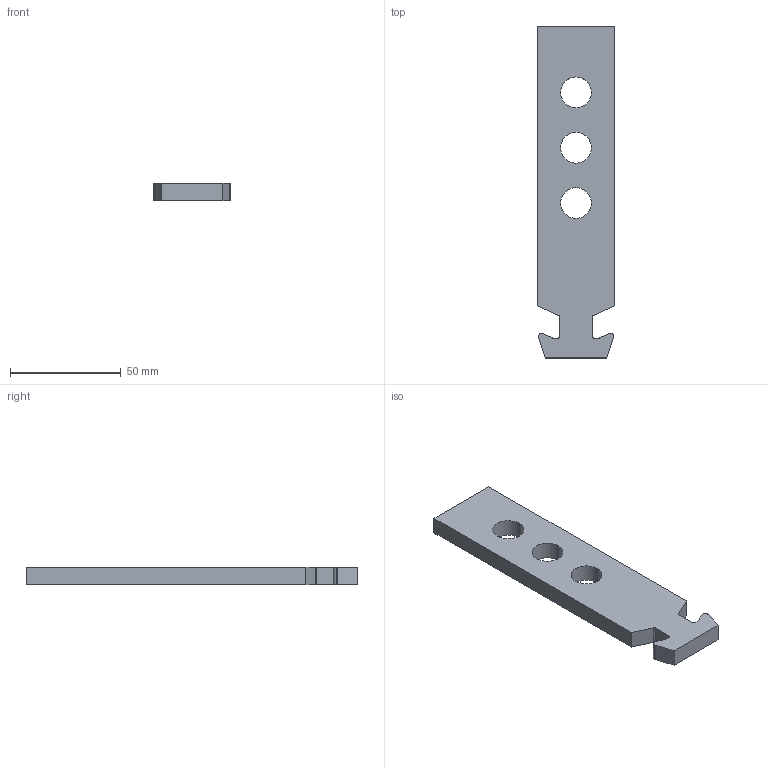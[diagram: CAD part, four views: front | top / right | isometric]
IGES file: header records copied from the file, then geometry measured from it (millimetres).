
Start section: 3D InterOp IGES (Version 26 1 0), Spatial Corp. Copyright (c) 1999-2007.
Global section: file name: B150358T14.igs; native system: Spatial Corp.; preprocessor: 3D InterOp GENERIC/IGES 3.0; author: Noname; organization: Noname; date: 20181022.154053; units: millimetre
Bounding box: 35 x 150 x 8 mm (x, y, z)
Surface area: 13292.1 mm2 (no closed solid volume)
Topology: 0 solids, 0 shells, 31 faces, 174 edges, 174 vertices
Faces by surface type: extrusion 16, revolution 15
